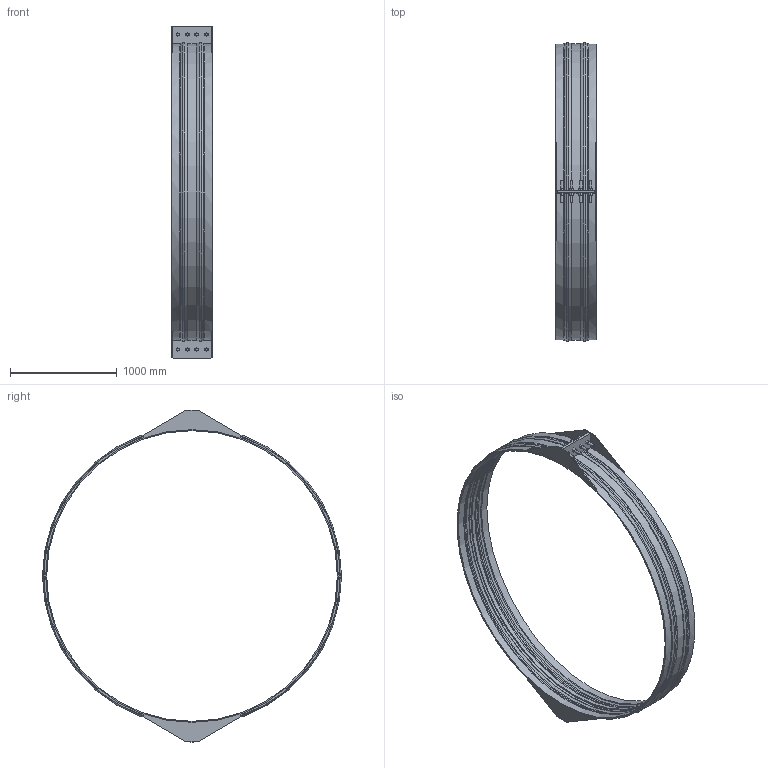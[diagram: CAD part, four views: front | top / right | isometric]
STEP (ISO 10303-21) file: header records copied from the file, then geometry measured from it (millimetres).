
FILE_DESCRIPTION(/* description */ ('VIC RESTRAINED COUPLING STYLE 233 (FLEX) (BRD)','CAx-IF Rec.Pracs.---Representation and Presentation of Product Manufacturing Information (PMI)---4.0---2014-10-13'),/* implementation_level */ '2;1');
FILE_NAME(/* name */ 'C:\Users\Vjadhav\Desktop\CAD for Inventor\Test for STEP\Vivek\Adsk_Inventor_Bolted Sleeve_iParts\STEP\Victaulic_VBSP_Coupling Flexible Restrained_Style 233 (BRD)\Victaulic_VBSP_Coupling Flexible Restrained_Style 233 (BRD)_125psi_108 (2700).stp',/* time_stamp */ '2020-09-24T12:31:59+05:00',/* author */ ('Vjadhav'),/* organization */ ('Victaulic'),/* preprocessor_version */ 'ST-DEVELOPER v17.2',/* originating_system */ 'Autodesk Inventor 2019',/* authorisation */ '');
FILE_SCHEMA (('AP242_MANAGED_MODEL_BASED_3D_ENGINEERING_MIM_LF { 1 0 10303 442 1 1 4 }'));
Length unit declared in the file: inch
Products named in the file (1): Style_233_Type_2_125psi-108.0
Bounding box: 381 x 2801.64 x 3111.5 mm (x, y, z)
Volume: 63076765.2 mm3; surface area: 8264658 mm2
Topology: 1 solids, 1 shells, 239 faces, 625 edges, 422 vertices
Faces by surface type: plane 166, cylinder 43, torus 18, cone 12
Full cylindrical faces by diameter (mm): 25.4 x16, 2724.15 x1, 2743.2 x2, 2749.55 x2
Entity records: 7896 total; most frequent: CARTESIAN_POINT 1496, DIRECTION 1259, ORIENTED_EDGE 1250, EDGE_CURVE 625, LINE 449, VECTOR 449, VERTEX_POINT 422, AXIS2_PLACEMENT_3D 405
